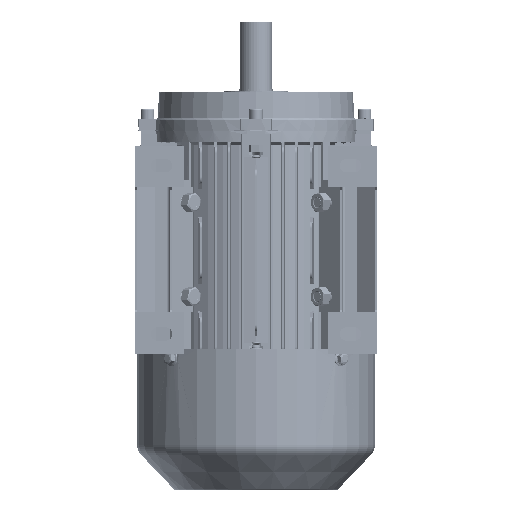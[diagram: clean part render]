
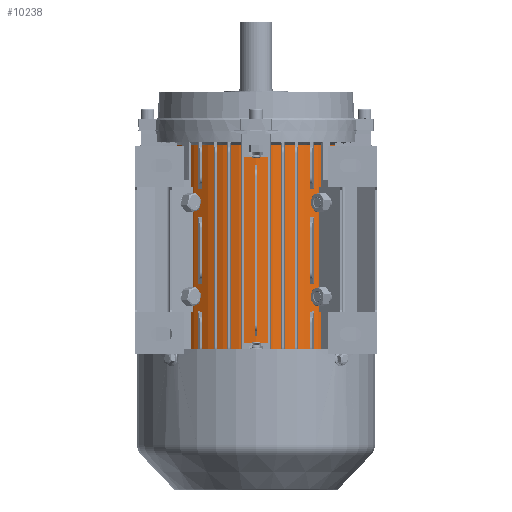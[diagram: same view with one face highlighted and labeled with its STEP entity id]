
A CAD part, front view. The second image highlights one B-rep face of the part: STEP entity #10238.
In plain terms, the highlighted cylindrical face has radius 71.192 mm (diameter 142.384 mm), a partial arc.
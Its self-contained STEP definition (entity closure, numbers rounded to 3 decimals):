
#3149 = VERTEX_POINT ( 'NONE', #3744 ) ;
#3744 = CARTESIAN_POINT ( 'NONE',  ( -71.192, 0., -13.023 ) ) ;
#9009 = CARTESIAN_POINT ( 'NONE',  ( 71.192, 0., -13.023 ) ) ;
#10238 = ADVANCED_FACE ( 'NONE', ( #16920 ), #72849, .T. ) ;
#13647 = EDGE_CURVE ( 'NONE', #117641, #3149, #65867, .T. ) ;
#13722 = ORIENTED_EDGE ( 'NONE', *, *, #98689, .T. ) ;
#15293 = CARTESIAN_POINT ( 'NONE',  ( 71.192, 0., 0. ) ) ;
#15381 = CARTESIAN_POINT ( 'NONE',  ( 0., 0., -169.023 ) ) ;
#16920 = FACE_OUTER_BOUND ( 'NONE', #141161, .T. ) ;
#26012 = CARTESIAN_POINT ( 'NONE',  ( -71.192, 0., -169.023 ) ) ;
#26647 = DIRECTION ( 'NONE',  ( 1., 0., 0. ) ) ;
#29169 = CARTESIAN_POINT ( 'NONE',  ( 0., 0., -13.023 ) ) ;
#40408 = DIRECTION ( 'NONE',  ( 1., 0., 0. ) ) ;
#50522 = AXIS2_PLACEMENT_3D ( 'NONE', #29169, #107365, #40408 ) ;
#65867 = LINE ( 'NONE', #131324, #88560 ) ;
#67189 = VERTEX_POINT ( 'NONE', #142681 ) ;
#71681 = LINE ( 'NONE', #15293, #97928 ) ;
#72849 = CYLINDRICAL_SURFACE ( 'NONE', #109437, 71.192 ) ;
#75150 = EDGE_CURVE ( 'NONE', #67189, #115724, #71681, .T. ) ;
#76143 = DIRECTION ( 'NONE',  ( 0., 0., 1. ) ) ;
#78281 = EDGE_CURVE ( 'NONE', #3149, #115724, #118120, .T. ) ;
#82197 = DIRECTION ( 'NONE',  ( 0., 0., 1. ) ) ;
#88560 = VECTOR ( 'NONE', #142571, 1000. ) ;
#93561 = DIRECTION ( 'NONE',  ( 0., 0., 1. ) ) ;
#97928 = VECTOR ( 'NONE', #82197, 1000. ) ;
#98689 = EDGE_CURVE ( 'NONE', #117641, #67189, #99480, .T. ) ;
#99480 = CIRCLE ( 'NONE', #126387, 71.192 ) ;
#102978 = ORIENTED_EDGE ( 'NONE', *, *, #75150, .T. ) ;
#103138 = ORIENTED_EDGE ( 'NONE', *, *, #78281, .F. ) ;
#107365 = DIRECTION ( 'NONE',  ( 0., 0., 1. ) ) ;
#109437 = AXIS2_PLACEMENT_3D ( 'NONE', #109968, #76143, #120742 ) ;
#109968 = CARTESIAN_POINT ( 'NONE',  ( 0., 0., 0. ) ) ;
#115724 = VERTEX_POINT ( 'NONE', #9009 ) ;
#117641 = VERTEX_POINT ( 'NONE', #26012 ) ;
#118120 = CIRCLE ( 'NONE', #50522, 71.192 ) ;
#120742 = DIRECTION ( 'NONE',  ( 1., 0., 0. ) ) ;
#126387 = AXIS2_PLACEMENT_3D ( 'NONE', #15381, #93561, #26647 ) ;
#131324 = CARTESIAN_POINT ( 'NONE',  ( -71.192, 0., 0. ) ) ;
#135184 = ORIENTED_EDGE ( 'NONE', *, *, #13647, .F. ) ;
#141161 = EDGE_LOOP ( 'NONE', ( #135184, #13722, #102978, #103138 ) ) ;
#142571 = DIRECTION ( 'NONE',  ( 0., 0., 1. ) ) ;
#142681 = CARTESIAN_POINT ( 'NONE',  ( 71.192, 0., -169.023 ) ) ;
